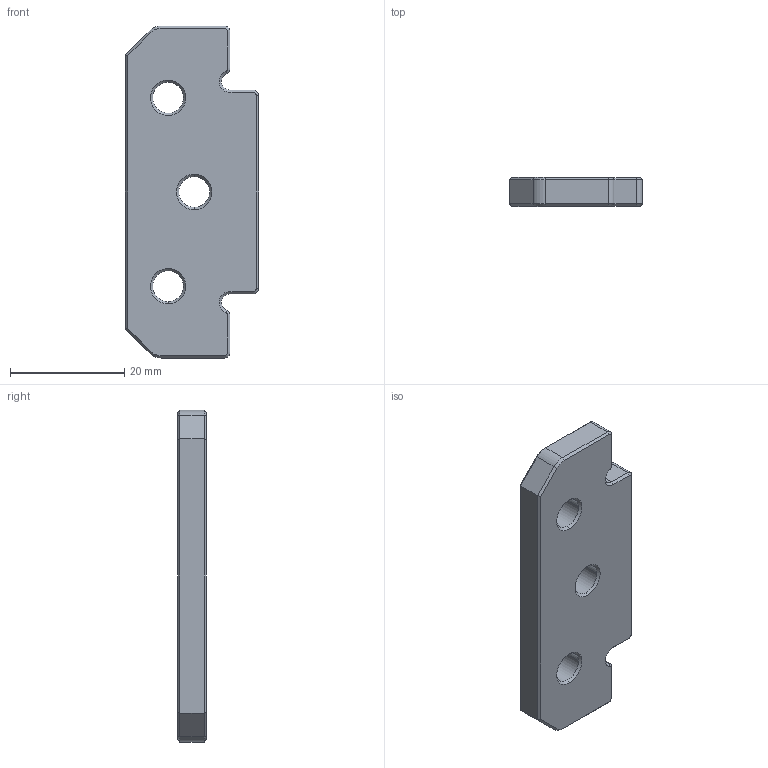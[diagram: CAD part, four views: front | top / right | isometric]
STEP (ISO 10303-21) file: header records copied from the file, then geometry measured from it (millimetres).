
FILE_DESCRIPTION (( 'STEP AP214' ), '1' );
FILE_NAME ('MAM13101 -XB- Plaque Jonction XY - Top.STEP', '2024-12-20T16:56:02', ( '' ), ( '' ), 'SwSTEP 2.0', 'SolidWorks 2019', '' );
FILE_SCHEMA (( 'AUTOMOTIVE_DESIGN' ));
Length unit declared in the file: millimetre
Products named in the file (1): MAM13101 -XB- Plaque Jonction XY - Top
Bounding box: 23.25 x 5 x 58 mm (x, y, z)
Volume: 5435.4 mm3; surface area: 3455.4 mm2
Topology: 1 solids, 1 shells, 90 faces, 220 edges, 130 vertices
Faces by surface type: cone 36, plane 32, cylinder 22
Entity records: 2638 total; most frequent: DIRECTION 486, CARTESIAN_POINT 437, ORIENTED_EDGE 432, EDGE_CURVE 216, AXIS2_PLACEMENT_3D 179, VERTEX_POINT 130, LINE 128, VECTOR 128
